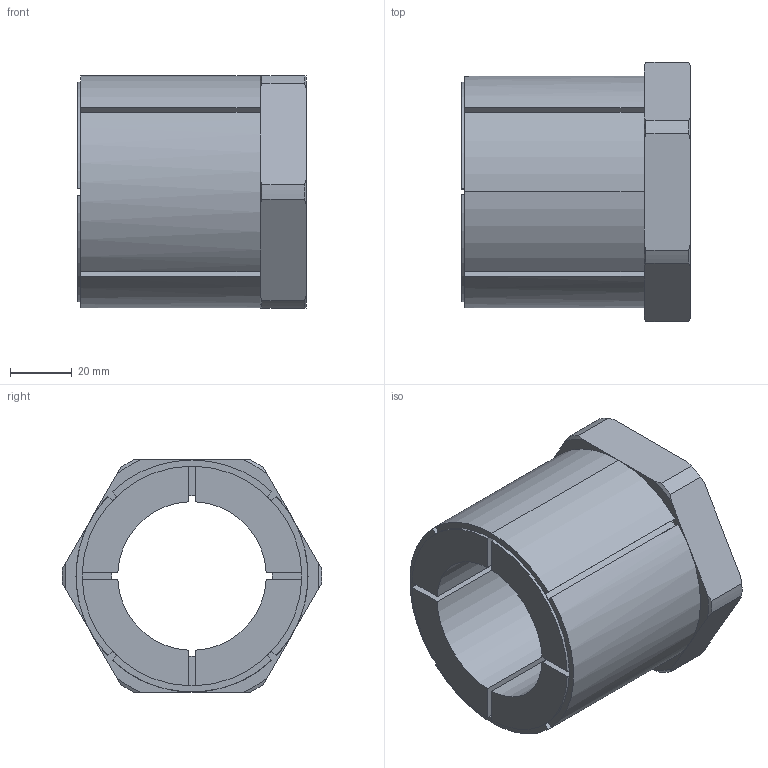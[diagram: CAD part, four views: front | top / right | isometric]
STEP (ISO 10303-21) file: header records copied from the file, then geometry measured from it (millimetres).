
FILE_DESCRIPTION (( 'STEP AP203' ), '1' );
FILE_NAME ('KBS 58 - 48 x 75.STEP', '2015-07-05T20:01:48', ( '' ), ( '' ), 'SwSTEP 2.0', 'SolidWorks 2010', '' );
FILE_SCHEMA (( 'CONFIG_CONTROL_DESIGN' ));
Length unit declared in the file: millimetre
Products named in the file (1): KBS 58 - 48 x 75
Bounding box: 74 x 83.99 x 75 mm (x, y, z)
Volume: 191100.6 mm3; surface area: 42553.1 mm2
Topology: 1 solids, 1 shells, 84 faces, 231 edges, 149 vertices
Faces by surface type: plane 42, cylinder 26, cone 16
Entity records: 2817 total; most frequent: CARTESIAN_POINT 585, ORIENTED_EDGE 462, DIRECTION 454, EDGE_CURVE 231, AXIS2_PLACEMENT_3D 170, VERTEX_POINT 149, VECTOR 114, LINE 114
